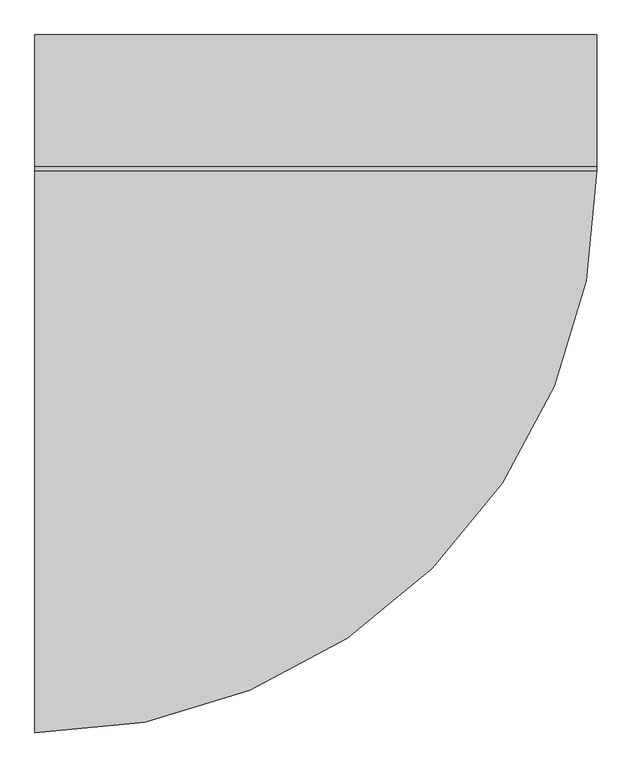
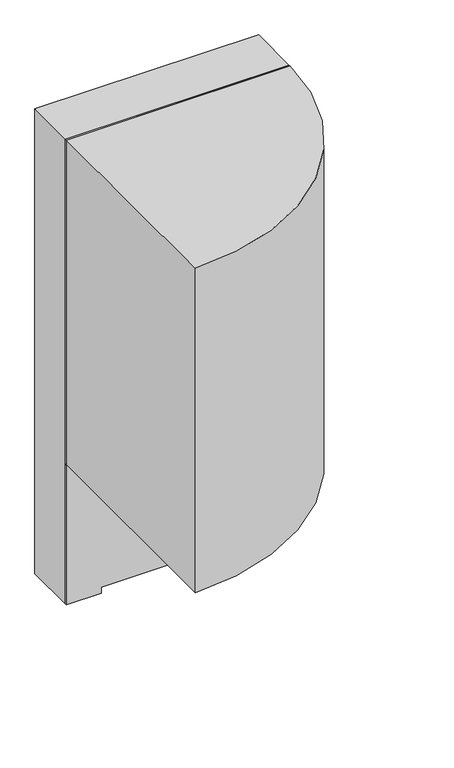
"""IFC4 building model written with IfcOpenShell, lengths in millimetres: proxy geometry."""

import ifcopenshell
import ifcopenshell.guid

model = None  # the IFC model being written
_history = None  # IfcOwnerHistory: only IFC2X3 demands one
_inside = {}  # id of a spatial element -> (the spatial element, [elements in it])
_under = {}  # id of a project, library or spatial element -> (it, [spatial elements below it])
_declared = {}  # id of a project -> (the project, [libraries it declares])
_typed = {}  # id of a type object -> (the type object, [elements of that type])
_made_of = {}  # id of a material, layer set ... -> (it, [elements and type objects made of it])


def new_model(schema):
    """Start an empty IFC model of exactly this schema.

    Asked for "IFC4X3", IfcOpenShell would pick the latest addendum, in which some entities
    have other attributes; the version numbers below select the first issue.
    IFC2X3 requires an IfcOwnerHistory on every rooted entity: one is made here for all.
    """
    global model, _history
    if schema == "IFC4X3":
        model = ifcopenshell.file(schema_version=(4, 3, 0, 0))
    else:
        model = ifcopenshell.file(schema=schema)
    _inside.clear()
    _under.clear()
    _declared.clear()
    _typed.clear()
    _made_of.clear()
    _history = None
    if model.schema == "IFC2X3":
        org = make("IfcOrganization", Name="unknown")
        user = make(
            "IfcPersonAndOrganization",
            ThePerson=make("IfcPerson", FamilyName="unknown"),
            TheOrganization=org,
        )
        app = make(
            "IfcApplication",
            ApplicationDeveloper=org,
            Version="unknown",
            ApplicationFullName="unknown",
            ApplicationIdentifier="unknown",
        )
        _history = make(
            "IfcOwnerHistory",
            OwningUser=user,
            OwningApplication=app,
            ChangeAction="ADDED",
            CreationDate=0,
        )
    return model


def make(cls, **values):
    """One entity of the class cls with the attributes given. An attribute that is None is left unset."""
    return model.create_entity(
        cls, **{name: value for name, value in values.items() if value is not None}
    )


def rooted(cls, **values):
    """An entity with a GlobalId (a new one), such as an element, a storey or a relation."""
    return make(cls, GlobalId=ifcopenshell.guid.new(), OwnerHistory=_history, **values)


def si_unit(unit_type, name, prefix=None):
    """IfcSIUnit, for example si_unit("LENGTHUNIT", "METRE", prefix="MILLI")."""
    return make("IfcSIUnit", UnitType=unit_type, Prefix=prefix, Name=name)


def assignment(units):
    """IfcUnitAssignment: the units of a project."""
    return None if units is None else make("IfcUnitAssignment", Units=units)


def point(xyz):
    """IfcCartesianPoint."""
    return None if xyz is None else make("IfcCartesianPoint", Coordinates=xyz)


def direction(xyz):
    """IfcDirection."""
    return None if xyz is None else make("IfcDirection", DirectionRatios=xyz)


def frame(location, z_axis=None, x_axis=None):
    """IfcAxis2Placement3D, a coordinate frame: its origin and axes. An axis left out is left unset."""
    return make(
        "IfcAxis2Placement3D",
        Location=point(location),
        Axis=direction(z_axis),
        RefDirection=direction(x_axis),
    )


def frame_2d(location, x_axis=None):
    """IfcAxis2Placement2D, a coordinate frame in the plane: its origin and x axis."""
    return make(
        "IfcAxis2Placement2D", Location=point(location), RefDirection=direction(x_axis)
    )


def origin():
    """The frame at (0, 0, 0) with its axes left unset."""
    return frame((0.0, 0.0, 0.0))


def place(relative_to, where):
    """IfcLocalPlacement: puts the frame where relative to a parent placement (None: the world)."""
    return make(
        "IfcLocalPlacement", PlacementRelTo=relative_to, RelativePlacement=where
    )


def context(
    kind, dimensions, precision=None, world=None, true_north=None, identifier=None
):
    """IfcGeometricRepresentationContext, for example the 3D "Model" context."""
    return make(
        "IfcGeometricRepresentationContext",
        ContextIdentifier=identifier,
        ContextType=kind,
        CoordinateSpaceDimension=dimensions,
        Precision=precision,
        WorldCoordinateSystem=world,
        TrueNorth=true_north,
    )


def project(units=None, contexts=None):
    """IfcProject with its units and contexts."""
    return rooted(
        "IfcProject",
        Name="project",
        RepresentationContexts=contexts,
        UnitsInContext=assignment(units),
    )


def spatial(cls, under=None, at=None, **own):
    """A site, building, storey or space (cls), placed at a placement, below another one or the project."""
    s = rooted(cls, ObjectPlacement=at, **own)
    if under is not None:
        _under.setdefault(under.id(), (under, []))[1].append(s)
    return s


def polyline(points):
    """IfcPolyline through the points."""
    return make("IfcPolyline", Points=[point(p) for p in points])


def circle_curve(where, radius):
    """IfcCircle in the frame where."""
    return make("IfcCircle", Position=where, Radius=radius)


def trimmed(basis, trim1, trim2, sense, master):
    """IfcTrimmedCurve: the piece of a basis curve between two trims."""
    return make(
        "IfcTrimmedCurve",
        BasisCurve=basis,
        Trim1=trim1,
        Trim2=trim2,
        SenseAgreement=sense,
        MasterRepresentation=master,
    )


def segment(curve, same_sense, transition):
    """IfcCompositeCurveSegment."""
    return make(
        "IfcCompositeCurveSegment",
        Transition=transition,
        SameSense=same_sense,
        ParentCurve=curve,
    )


def composite_curve(segments, self_intersect=None):
    """IfcCompositeCurve: segments joined end to end."""
    return make("IfcCompositeCurve", Segments=segments, SelfIntersect=self_intersect)


def outline(outer, holes=None, kind="AREA"):
    """IfcArbitraryClosedProfileDef: a profile drawn as a closed curve; with holes, ...WithVoids."""
    if holes is None:
        return make("IfcArbitraryClosedProfileDef", ProfileType=kind, OuterCurve=outer)
    return make(
        "IfcArbitraryProfileDefWithVoids",
        ProfileType=kind,
        OuterCurve=outer,
        InnerCurves=holes,
    )


def extrude(swept, where, along, depth):
    """IfcExtrudedAreaSolid: the profile swept, set in the frame where, extruded along a direction by depth."""
    return make(
        "IfcExtrudedAreaSolid",
        SweptArea=swept,
        Position=where,
        ExtrudedDirection=direction(along),
        Depth=depth,
    )


def shape(context_of_items, identifier, shape_type, items):
    """IfcShapeRepresentation: the items that make up one representation, for example the "Body"."""
    return make(
        "IfcShapeRepresentation",
        ContextOfItems=context_of_items,
        RepresentationIdentifier=identifier,
        RepresentationType=shape_type,
        Items=items,
    )


def source(mapping_origin, context_of_items, identifier, shape_type, items):
    """IfcRepresentationMap: a shape defined once, which mapped items show again and again."""
    return make(
        "IfcRepresentationMap",
        MappingOrigin=mapping_origin,
        MappedRepresentation=shape(context_of_items, identifier, shape_type, items),
    )


def transform(
    local_origin,
    x_axis=None,
    y_axis=None,
    z_axis=None,
    scale=None,
    scale2=None,
    scale3=None,
    uniform=True,
):
    """IfcCartesianTransformationOperator3D, or its non-uniform kind. x_axis, y_axis, z_axis: its Axis1, 2, 3."""
    if uniform:
        return make(
            "IfcCartesianTransformationOperator3D",
            Axis1=direction(x_axis),
            Axis2=direction(y_axis),
            LocalOrigin=point(local_origin),
            Scale=scale,
            Axis3=direction(z_axis),
        )
    return make(
        "IfcCartesianTransformationOperator3DnonUniform",
        Axis1=direction(x_axis),
        Axis2=direction(y_axis),
        LocalOrigin=point(local_origin),
        Scale=scale,
        Axis3=direction(z_axis),
        Scale2=scale2,
        Scale3=scale3,
    )


def mapped(mapping_source, mapping_target):
    """IfcMappedItem: shows the shape of a source again, moved by a transform."""
    return make(
        "IfcMappedItem", MappingSource=mapping_source, MappingTarget=mapping_target
    )


def made_of(thing, what):
    """Note that an element or type object is made of a material, layer set ...; save() writes the relation."""
    if what is not None:
        _made_of.setdefault(what.id(), (what, []))[1].append(thing)
    return thing


def element(
    cls,
    number,
    at=None,
    inside=None,
    cuts=None,
    type_object=None,
    material=None,
    context=None,
    identifier="Body",
    shape_type=None,
    held_by="IfcProductDefinitionShape",
    body=None,
    shapes=None,
    **own,
):
    """One element of the class cls, such as IfcWall. Its Tag is "e" and its number.

    at: its placement. inside: the storey or other place that contains it. cuts: it is an
    opening in that element (IfcRelVoidsElement). A single representation is given by context,
    identifier, shape_type and body (its items); several are given by shapes. held_by: the class
    of the entity that holds the representations. save() writes the other relations.
    """
    e = rooted(cls, Tag="e%d" % number, ObjectPlacement=at, **own)
    if body is not None:
        shapes = [shape(context, identifier, shape_type, body)]
    if shapes is not None:
        e.Representation = make(held_by, Representations=shapes)
    if inside is not None:
        _inside.setdefault(inside.id(), (inside, []))[1].append(e)
    if cuts is not None:
        rooted(
            "IfcRelVoidsElement", RelatingBuildingElement=cuts, RelatedOpeningElement=e
        )
    if type_object is not None:
        _typed.setdefault(type_object.id(), (type_object, []))[1].append(e)
    return made_of(e, material)


def aggregate(whole, parts):
    """IfcRelAggregates: a whole, such as a stair, and the parts it consists of."""
    return rooted("IfcRelAggregates", RelatingObject=whole, RelatedObjects=parts)


def save(model, path):
    """Write the relations noted so far, then the file.

    IfcRelAggregates (storeys below a building ...), IfcRelContainedInSpatialStructure (elements
    in a storey), IfcRelDefinesByType, IfcRelAssociatesMaterial and IfcRelDeclares: one each for
    every whole, place, type object, material and project.
    """
    for whole, parts in _under.values():
        aggregate(whole, parts)
    for where, things in _inside.values():
        rooted(
            "IfcRelContainedInSpatialStructure",
            RelatedElements=things,
            RelatingStructure=where,
        )
    for kind, things in _typed.values():
        rooted("IfcRelDefinesByType", RelatedObjects=things, RelatingType=kind)
    for what, things in _made_of.values():
        rooted("IfcRelAssociatesMaterial", RelatedObjects=things, RelatingMaterial=what)
    for by, libraries in _declared.values():
        rooted("IfcRelDeclares", RelatingContext=by, RelatedDefinitions=libraries)
    model.write(path)


def specialty_equipment_57ea4322(model_context):
    return source(origin(), model_context, "Body", "SweptSolid", [
        extrude(outline(polyline([(589.0375962, -445.77), (0.0, -445.77), (0.0, -305.0919025), (25.4, -305.0919025), (25.4, 305.0919025), (0.0, 305.0919025), (0.0, 445.77), (589.0375962, 445.77), (589.0375962, -445.77)])), frame((0.0, -107.95, 0.0), z_axis=(0.0, 1.0, 0.0), x_axis=(0.0, 0.0, 1.0)), (0.0, 0.0, 1.0), 6.35),
        extrude(outline(polyline([(305.0919025, -107.95), (-305.0919025, -107.95), (-305.0919025, -101.6), (305.0919025, -101.6), (305.0919025, -107.95)])), frame((0.0, 0.0, 732.8906937), z_axis=(0.0, 0.0, 1.0), x_axis=(1.0, 0.0, 0.0)), (0.0, 0.0, 1.0), 1084.7712088),
        extrude(outline(polyline([(1958.34, 445.77), (1958.34, -445.77), (592.2125962, -445.77), (592.2125962, 445.77), (1958.34, 445.77)]), holes=[polyline([(732.8906937, -305.0919025), (1817.6619025, -305.0919025), (1817.6619025, 305.0919025), (732.8906937, 305.0919025), (732.8906937, -305.0919025)])]), frame((0.0, -107.95, 0.0), z_axis=(0.0, 1.0, 0.0), x_axis=(0.0, 0.0, 1.0)), (0.0, 0.0, 1.0), 6.35),
        extrude(outline(polyline([(1958.34, 445.77), (1958.34, -445.77), (0.0, -445.77), (0.0, -305.0919025), (25.4, -305.0919025), (25.4, 305.0919025), (0.0, 305.0919025), (0.0, 445.77), (1958.34, 445.77)])), frame((0.0, -101.6, 0.0), z_axis=(0.0, 1.0, 0.0), x_axis=(0.0, 0.0, 1.0)), (0.0, 0.0, 1.0), 209.55),
        extrude(outline(composite_curve([segment(polyline([(-445.77, -999.49), (-445.77, -107.95), (445.77, -107.95)]), True, "CONTINUOUS"), segment(trimmed(circle_curve(frame_2d((-445.77, -107.95)), 891.54), [point((445.77, -107.95))], [point((-445.77, -999.49))], False, "CARTESIAN"), True, "CONTINUOUS")], self_intersect=False)), frame((0.0, 0.0, 592.2125962), z_axis=(0.0, 0.0, 1.0), x_axis=(1.0, 0.0, 0.0)), (0.0, 0.0, 1.0), 1366.1274038),
    ])


if __name__ == "__main__":
    model = new_model("IFC4")
    model_context = context("Model", 3, world=origin())
    ifc_project = project(units=[si_unit("LENGTHUNIT", "METRE", prefix="MILLI")], contexts=[model_context])
    site = spatial("IfcSite", under=ifc_project)
    building = spatial("IfcBuilding", under=site)
    placement = place(None, origin())
    specialty_equipment_shape = specialty_equipment_57ea4322(model_context)
    element("IfcBuildingElementProxy", 1, Name="Kiosk-Floor_Mounted-Chief-Impact-Portrait : 49\" Single Kiosk, Black", ObjectType="Kiosk-Floor_Mounted-Chief-Impact-Portrait : 49\" Single Kiosk, Black", at=placement, inside=building, context=model_context, shape_type="MappedRepresentation", body=[
        mapped(specialty_equipment_shape, transform((0.0, 0.0, 0.0), x_axis=(1.0, 0.0, 0.0), y_axis=(0.0, 1.0, 0.0), z_axis=(0.0, 0.0, 1.0))),
    ])
    save(model, "model.ifc")
